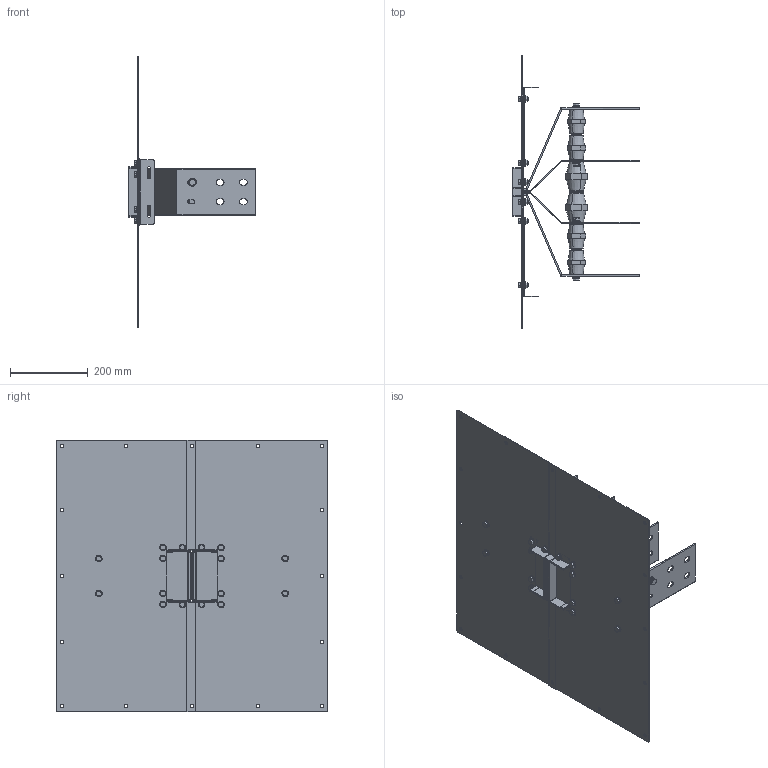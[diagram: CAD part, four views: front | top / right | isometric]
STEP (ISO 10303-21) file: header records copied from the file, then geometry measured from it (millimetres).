
FILE_DESCRIPTION(('CATIA V5 STEP','CAx-IF Rec.Pracs.--- Model Styling and Organization---1.5--- 2016-08-15','CAx-IF Rec.Pracs.---Supplemental Geometry---1.0---2011-11-01','CAx-IF Rec.Pracs.--- Composite Materials ---1.1---2010-07-15'),'2;1');
FILE_NAME('K:\COSCN 2011\32372311_RiduzioneSezioniBarre\03_Studio\__Modelli semplificati\XCP_UB semplificati per studi\XCP-HP_UB_4C_Pe_CRT_Assieme\Al\XCP-HP_UB_4C_Pe_S_Assieme - 800A Al_CRT\XCP-HP_UB_4C_Pe_S_Assieme - 800A Al_CRT.stp','2025-05-12T09:31:06+00:00',('Utente Bticino'),('Bticino S.p.A.'),'CATIA Version 5-6 Release 2020 SP5','CATIA V5 STEP AP214 v2','none');
FILE_SCHEMA(('AUTOMOTIVE_DESIGN { 1 0 10303 214 1 1 1 1 }'));
Length unit declared in the file: millimetre
Products named in the file (20): XCP-HP_UB_4C_Pe_S_Assieme - 800A Al_CRT; XCP-HP_UB_4C_Pe_S_PaccoBarre_800A Al_CRT; XCP-HP_UB_4C_Pe_S_Lamiere_800A Al_CRT; Ass_M10x25.1; 00740025 M10x25 UNI5739; Rondella spac M10 UNI 1751; 00750005; 130006; 130184; 130006_1; 130184_1; 130006_2; 130006_3; 00750033 - RONDELLA PIANA 4.8 D.12 UNI 6592 ZB; 00750033 - RONDELLA PIANA 4.8 D.12 UNI 6592 ZB_1; 00750033 - RONDELLA PIANA 4.8 D.12 UNI 6592 ZB_2; Viteria UB H130; Ass Vite+dado M8; Steel hex flanged SCREW M12x16; Steel hex flanged NUT M8
Assembly tree (39 placements, depth 4):
  XCP-HP_UB_4C_Pe_S_Assieme - 800A Al_CRT
    XCP-HP_UB_4C_Pe_S_PaccoBarre_800A Al_CRT
    XCP-HP_UB_4C_Pe_S_Lamiere_800A Al_CRT
    Ass_M10x25.1  x6
      00740025 M10x25 UNI5739
      Rondella spac M10 UNI 1751
      00750005
    130006
    130184
    130006_1
    130184_1
    130006_2
    130006_3
    00750033 - RONDELLA PIANA 4.8 D.12 UNI 6592 ZB
    00750033 - RONDELLA PIANA 4.8 D.12 UNI 6592 ZB_1
    00750033 - RONDELLA PIANA 4.8 D.12 UNI 6592 ZB_2
    Viteria UB H130
      Ass Vite+dado M8  x16
        Steel hex flanged SCREW M12x16
        Steel hex flanged NUT M8
Bounding box: 325 x 700 x 700 mm (x, y, z)
Volume: 2487447.8 mm3; surface area: 1802778.8 mm2
Topology: 73 solids, 73 shells, 1660 faces, 3976 edges, 2500 vertices
Faces by surface type: plane 728, cylinder 492, cone 200, bspline 176, torus 64
Entity records: 23761 total; most frequent: CARTESIAN_POINT 5192, ORIENTED_EDGE 3944, DIRECTION 3114, EDGE_CURVE 1972, AXIS2_PLACEMENT_3D 1368, VERTEX_POINT 1260, VECTOR 1128, LINE 1128
